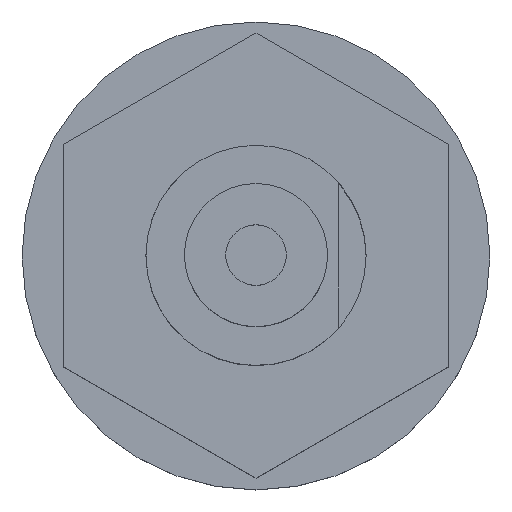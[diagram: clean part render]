
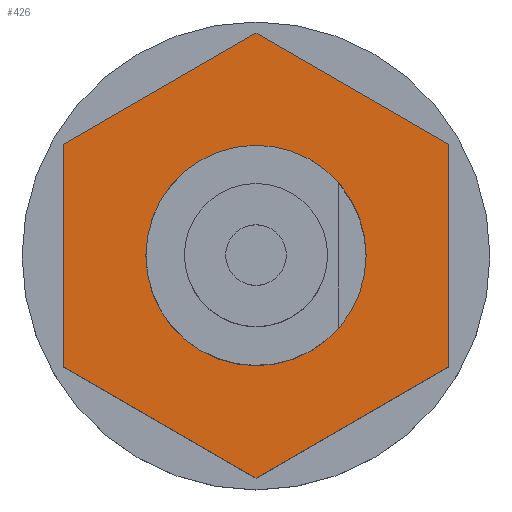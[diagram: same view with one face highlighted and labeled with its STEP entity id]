
A CAD part, top view. The second image highlights one B-rep face of the part: STEP entity #426.
In plain terms, the highlighted planar face has unit normal (0, 0, 1) as drawn and (-1, 0, 0) by its records, which use the part's own axes.
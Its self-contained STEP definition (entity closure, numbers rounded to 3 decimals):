
#409 = VERTEX_POINT ( 'NONE', #1262 ) ;
#410 = ORIENTED_EDGE ( 'NONE', *, *, #411, .T. ) ;
#411 = EDGE_CURVE ( 'NONE', #409, #412, #1261, .T. ) ;
#412 = VERTEX_POINT ( 'NONE', #1257 ) ;
#413 = ORIENTED_EDGE ( 'NONE', *, *, #466, .T. ) ;
#415 = EDGE_CURVE ( 'NONE', #416, #417, #1256, .T. ) ;
#416 = VERTEX_POINT ( 'NONE', #1251 ) ;
#417 = VERTEX_POINT ( 'NONE', #1250 ) ;
#426 = ADVANCED_FACE ( 'NONE', ( #1301, #1300 ), #1299, .T. ) ;
#427 = EDGE_LOOP ( 'NONE', ( #428, #482, #485, #488, #410, #413 ) ) ;
#428 = ORIENTED_EDGE ( 'NONE', *, *, #429, .T. ) ;
#429 = EDGE_CURVE ( 'NONE', #480, #481, #1294, .T. ) ;
#466 = EDGE_CURVE ( 'NONE', #412, #480, #1369, .T. ) ;
#467 = EDGE_LOOP ( 'NONE', ( #468, #469 ) ) ;
#468 = ORIENTED_EDGE ( 'NONE', *, *, #415, .F. ) ;
#469 = ORIENTED_EDGE ( 'NONE', *, *, #470, .F. ) ;
#470 = EDGE_CURVE ( 'NONE', #417, #416, #1365, .T. ) ;
#480 = VERTEX_POINT ( 'NONE', #1408 ) ;
#481 = VERTEX_POINT ( 'NONE', #1407 ) ;
#482 = ORIENTED_EDGE ( 'NONE', *, *, #483, .T. ) ;
#483 = EDGE_CURVE ( 'NONE', #481, #484, #1406, .T. ) ;
#484 = VERTEX_POINT ( 'NONE', #1402 ) ;
#485 = ORIENTED_EDGE ( 'NONE', *, *, #486, .T. ) ;
#486 = EDGE_CURVE ( 'NONE', #484, #487, #1401, .T. ) ;
#487 = VERTEX_POINT ( 'NONE', #1397 ) ;
#488 = ORIENTED_EDGE ( 'NONE', *, *, #489, .T. ) ;
#489 = EDGE_CURVE ( 'NONE', #487, #409, #1396, .T. ) ;
#1250 = CARTESIAN_POINT ( 'NONE',  ( 5., -2., 0. ) ) ;
#1251 = CARTESIAN_POINT ( 'NONE',  ( 5., 2., 0. ) ) ;
#1252 = DIRECTION ( 'NONE',  ( 0., -1., 0. ) ) ;
#1253 = DIRECTION ( 'NONE',  ( -1., 0., 0. ) ) ;
#1254 = CARTESIAN_POINT ( 'NONE',  ( 5., 0., 0. ) ) ;
#1255 = AXIS2_PLACEMENT_3D ( 'NONE', #1254, #1253, #1252 ) ;
#1256 = CIRCLE ( 'NONE', #1255, 2. ) ;
#1257 = CARTESIAN_POINT ( 'NONE',  ( 5., -2.021, 3.5 ) ) ;
#1258 = DIRECTION ( 'NONE',  ( 0., 0.5, 0.866 ) ) ;
#1259 = VECTOR ( 'NONE', #1258, 1000. ) ;
#1260 = CARTESIAN_POINT ( 'NONE',  ( 5., -4.041, 0. ) ) ;
#1261 = LINE ( 'NONE', #1260, #1259 ) ;
#1262 = CARTESIAN_POINT ( 'NONE',  ( 5., -4.041, 0. ) ) ;
#1291 = DIRECTION ( 'NONE',  ( 0., 0.5, -0.866 ) ) ;
#1292 = VECTOR ( 'NONE', #1291, 1000. ) ;
#1293 = CARTESIAN_POINT ( 'NONE',  ( 5., 2.021, 3.5 ) ) ;
#1294 = LINE ( 'NONE', #1293, #1292 ) ;
#1295 = DIRECTION ( 'NONE',  ( 0., -1., 0. ) ) ;
#1296 = DIRECTION ( 'NONE',  ( -1., 0., 0. ) ) ;
#1297 = CARTESIAN_POINT ( 'NONE',  ( 5., 4.041, 0. ) ) ;
#1298 = AXIS2_PLACEMENT_3D ( 'NONE', #1297, #1296, #1295 ) ;
#1299 = PLANE ( 'NONE',  #1298 ) ;
#1300 = FACE_BOUND ( 'NONE', #467, .T. ) ;
#1301 = FACE_OUTER_BOUND ( 'NONE', #427, .T. ) ;
#1361 = DIRECTION ( 'NONE',  ( 0., -1., 0. ) ) ;
#1362 = DIRECTION ( 'NONE',  ( -1., 0., 0. ) ) ;
#1363 = CARTESIAN_POINT ( 'NONE',  ( 5., 0., 0. ) ) ;
#1364 = AXIS2_PLACEMENT_3D ( 'NONE', #1363, #1362, #1361 ) ;
#1365 = CIRCLE ( 'NONE', #1364, 2. ) ;
#1366 = DIRECTION ( 'NONE',  ( 0., 1., 0. ) ) ;
#1367 = VECTOR ( 'NONE', #1366, 1000. ) ;
#1368 = CARTESIAN_POINT ( 'NONE',  ( 5., -2.021, 3.5 ) ) ;
#1369 = LINE ( 'NONE', #1368, #1367 ) ;
#1393 = DIRECTION ( 'NONE',  ( 0., -0.5, 0.866 ) ) ;
#1394 = VECTOR ( 'NONE', #1393, 1000. ) ;
#1395 = CARTESIAN_POINT ( 'NONE',  ( 5., -2.021, -3.5 ) ) ;
#1396 = LINE ( 'NONE', #1395, #1394 ) ;
#1397 = CARTESIAN_POINT ( 'NONE',  ( 5., -2.021, -3.5 ) ) ;
#1398 = DIRECTION ( 'NONE',  ( 0., -1., 0. ) ) ;
#1399 = VECTOR ( 'NONE', #1398, 1000. ) ;
#1400 = CARTESIAN_POINT ( 'NONE',  ( 5., 2.021, -3.5 ) ) ;
#1401 = LINE ( 'NONE', #1400, #1399 ) ;
#1402 = CARTESIAN_POINT ( 'NONE',  ( 5., 2.021, -3.5 ) ) ;
#1403 = DIRECTION ( 'NONE',  ( 0., -0.5, -0.866 ) ) ;
#1404 = VECTOR ( 'NONE', #1403, 1000. ) ;
#1405 = CARTESIAN_POINT ( 'NONE',  ( 5., 4.041, 0. ) ) ;
#1406 = LINE ( 'NONE', #1405, #1404 ) ;
#1407 = CARTESIAN_POINT ( 'NONE',  ( 5., 4.041, 0. ) ) ;
#1408 = CARTESIAN_POINT ( 'NONE',  ( 5., 2.021, 3.5 ) ) ;
